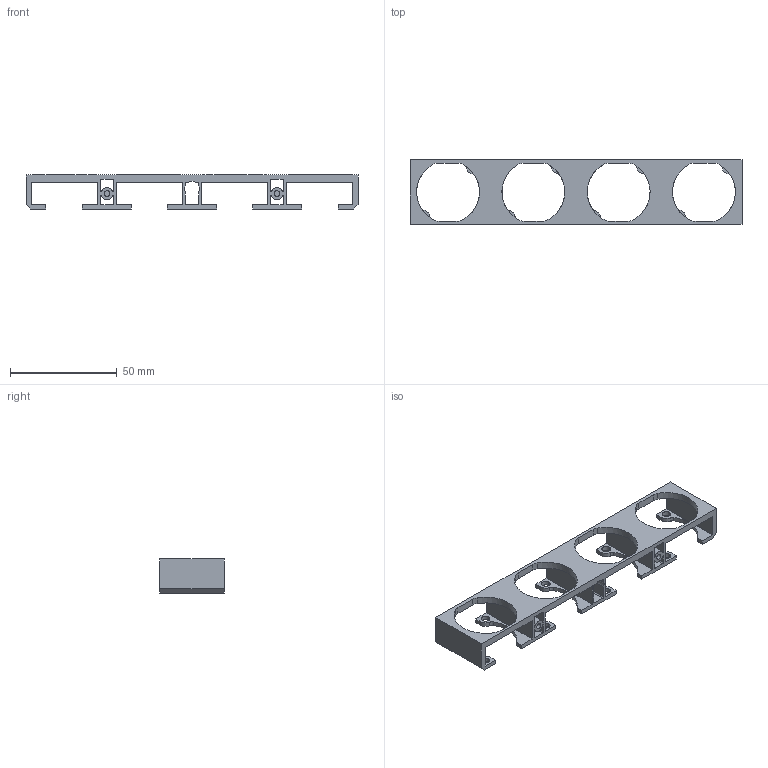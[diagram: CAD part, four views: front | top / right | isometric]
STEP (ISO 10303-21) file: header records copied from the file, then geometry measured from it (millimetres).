
FILE_DESCRIPTION((''),'2;1');
FILE_NAME('HIILEN-FAN-Z','2024-12-18T',('18137'),(''),'CREO PARAMETRIC BY PTC INC, 2016050','CREO PARAMETRIC BY PTC INC, 2016050','');
FILE_SCHEMA(('CONFIG_CONTROL_DESIGN'));
Length unit declared in the file: millimetre
Products named in the file (1): HIILEN-FAN-Z
Bounding box: 155.7 x 30.3 x 16 mm (x, y, z)
Volume: 15599.8 mm3; surface area: 16997.7 mm2
Topology: 1 solids, 1 shells, 185 faces, 545 edges, 366 vertices
Faces by surface type: cylinder 106, plane 79
Entity records: 6369 total; most frequent: DIRECTION 1135, CARTESIAN_POINT 1096, ORIENTED_EDGE 1090, EDGE_CURVE 545, AXIS2_PLACEMENT_3D 405, VERTEX_POINT 366, VECTOR 325, LINE 325
